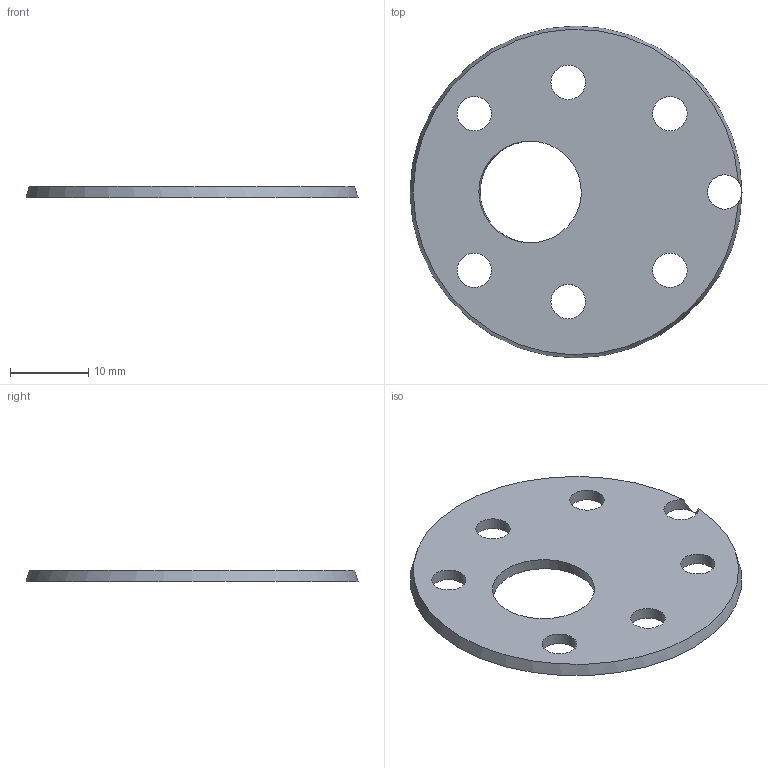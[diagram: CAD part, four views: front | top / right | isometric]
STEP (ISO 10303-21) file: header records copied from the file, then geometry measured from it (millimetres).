
FILE_DESCRIPTION(('Open CASCADE Model'),'2;1');
FILE_NAME('Open CASCADE Shape Model','2026-08-19T15:28:08',('Author'),( 'Open CASCADE'),'Open CASCADE STEP processor 7.9','Open CASCADE 7.9' ,'Unknown');
FILE_SCHEMA(('AUTOMOTIVE_DESIGN { 1 0 10303 214 1 1 1 1 }'));
Length unit declared in the file: millimetre
Products named in the file (1): Open CASCADE STEP translator 7.9 3
Bounding box: 42.41 x 42.41 x 1.5 mm (x, y, z)
Volume: 1720.5 mm3; surface area: 2698.6 mm2
Topology: 1 solids, 1 shells, 11 faces, 29 edges, 19 vertices
Faces by surface type: cylinder 8, plane 2, sphere 1
Full cylindrical faces by diameter (mm): 4.4 x7, 13 x1
Entity records: 1002 total; most frequent: CARTESIAN_POINT 363, DIRECTION 122, ORIENTED_EDGE 58, PCURVE 58, DEFINITIONAL_REPRESENTATION 58, LINE 42, VECTOR 42, CIRCLE 33
